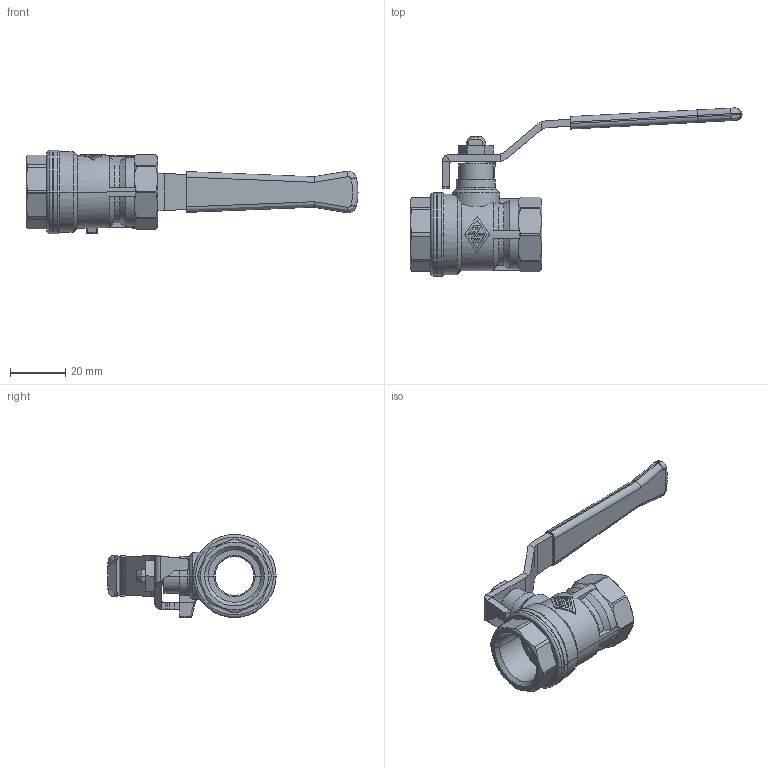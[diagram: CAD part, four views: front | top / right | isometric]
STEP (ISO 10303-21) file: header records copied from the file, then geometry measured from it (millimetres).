
FILE_DESCRIPTION(('CoCreate Modeling STEP Export'),'2;1');
FILE_NAME('1510040000.stp','2009-11-03T 9:15:59',(''),(''),'CoCreate Modeling STEP processor for AP214 (Solid Model)','CoCreate Modeling 16.00D 29-May-2009 (C) Parametric Technology GmbH','');
FILE_SCHEMA(('AUTOMOTIVE_DESIGN { 1 0 10303 214 1 1 1 1 }'));
Length unit declared in the file: millimetre
Products named in the file (2): 1510040000
Assembly tree (1 placements, depth 2):
  1510040000
    1510040000
Bounding box: 119.7 x 60.63 x 30 mm (x, y, z)
Volume: 23560.4 mm3; surface area: 12644.7 mm2
Topology: 1 solids, 3 shells, 519 faces, 1357 edges, 860 vertices
Faces by surface type: plane 200, cylinder 176, cone 107, bspline 21, torus 10, extrusion 3, sphere 2
Entity records: 26028 total; most frequent: CARTESIAN_POINT 13688, ORIENTED_EDGE 2706, DIRECTION 1774, EDGE_CURVE 1353, VERTEX_POINT 860, VECTOR 634, LINE 631, AXIS2_PLACEMENT_3D 570
